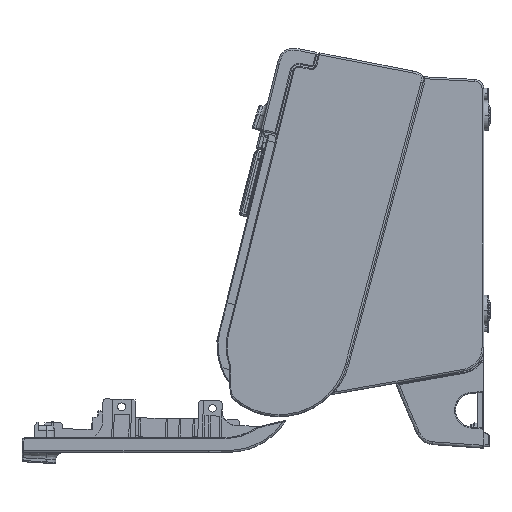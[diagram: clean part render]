
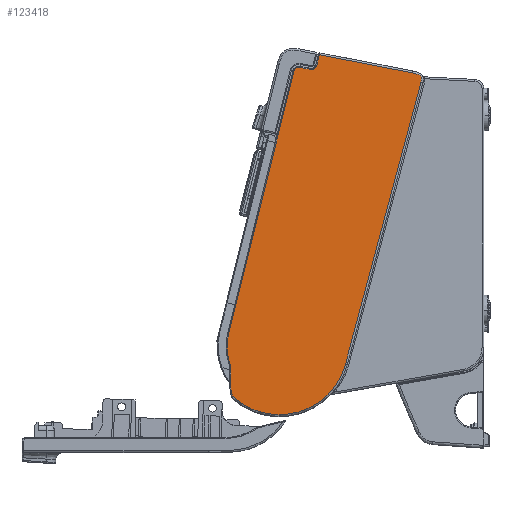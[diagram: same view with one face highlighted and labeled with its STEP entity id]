
A CAD part, left-side view. The second image highlights one B-rep face of the part: STEP entity #123418.
In plain terms, the highlighted planar face has unit normal (-1, 0, 0).
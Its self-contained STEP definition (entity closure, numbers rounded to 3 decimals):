
#97621=DIRECTION('',(0.,-0.242,0.97));
#97622=VECTOR('',#97621,5.665);
#97623=CARTESIAN_POINT('',(-29.6,0.031,53.532));
#97624=LINE('',#97623,#97622);
#97625=DIRECTION('',(0.,-0.982,-0.191));
#97626=VECTOR('',#97625,49.854);
#97627=CARTESIAN_POINT('',(-29.6,-1.339,59.029));
#97628=LINE('',#97627,#97626);
#97629=CARTESIAN_POINT('',(-29.6,-50.278,49.516));
#97630=CARTESIAN_POINT('',(-29.6,-50.534,49.467));
#97631=CARTESIAN_POINT('',(-29.6,-51.014,49.366));
#97632=CARTESIAN_POINT('',(-29.6,-51.637,49.215));
#97633=CARTESIAN_POINT('',(-29.6,-52.176,49.064));
#97634=CARTESIAN_POINT('',(-29.6,-52.639,48.916));
#97635=CARTESIAN_POINT('',(-29.6,-53.035,48.771));
#97636=CARTESIAN_POINT('',(-29.6,-53.372,48.63));
#97637=CARTESIAN_POINT('',(-29.6,-53.658,48.495));
#97638=CARTESIAN_POINT('',(-29.6,-53.901,48.366));
#97639=CARTESIAN_POINT('',(-29.6,-54.107,48.243));
#97640=CARTESIAN_POINT('',(-29.6,-54.284,48.125));
#97641=CARTESIAN_POINT('',(-29.6,-54.436,48.011));
#97642=CARTESIAN_POINT('',(-29.6,-54.567,47.901));
#97643=CARTESIAN_POINT('',(-29.6,-54.681,47.795));
#97644=CARTESIAN_POINT('',(-29.6,-54.78,47.691));
#97645=CARTESIAN_POINT('',(-29.6,-54.867,47.588));
#97646=CARTESIAN_POINT('',(-29.6,-54.943,47.486));
#97647=CARTESIAN_POINT('',(-29.6,-55.011,47.383));
#97648=CARTESIAN_POINT('',(-29.6,-55.072,47.279));
#97649=CARTESIAN_POINT('',(-29.6,-55.125,47.172));
#97650=CARTESIAN_POINT('',(-29.6,-55.173,47.06));
#97651=CARTESIAN_POINT('',(-29.6,-55.215,46.943));
#97652=CARTESIAN_POINT('',(-29.6,-55.252,46.817));
#97653=CARTESIAN_POINT('',(-29.6,-55.284,46.682));
#97654=CARTESIAN_POINT('',(-29.6,-55.309,46.535));
#97655=CARTESIAN_POINT('',(-29.6,-55.327,46.373));
#97656=CARTESIAN_POINT('',(-29.6,-55.338,46.194));
#97657=CARTESIAN_POINT('',(-29.6,-55.339,45.995));
#97658=CARTESIAN_POINT('',(-29.6,-55.328,45.77));
#97659=CARTESIAN_POINT('',(-29.6,-55.303,45.516));
#97660=CARTESIAN_POINT('',(-29.6,-55.26,45.226));
#97661=CARTESIAN_POINT('',(-29.6,-55.195,44.895));
#97662=CARTESIAN_POINT('',(-29.6,-55.133,44.642));
#97663=CARTESIAN_POINT('',(-29.6,-55.097,44.507));
#97665=DIRECTION('',(0.,0.259,-0.966));
#97666=VECTOR('',#97665,154.335);
#97667=CARTESIAN_POINT('',(-29.6,-55.097,44.507));
#97668=LINE('',#97667,#97666);
#97669=CARTESIAN_POINT('',(-29.6,19.815,-95.2));
#97670=DIRECTION('',(1.,0.,0.));
#97671=DIRECTION('',(0.,-0.966,-0.259));
#97672=AXIS2_PLACEMENT_3D('',#97669,#97670,#97671);
#97674=CARTESIAN_POINT('',(-29.6,26.7,-115.95));
#97675=DIRECTION('',(1.,0.,0.));
#97676=DIRECTION('',(0.,0.955,-0.297));
#97677=AXIS2_PLACEMENT_3D('',#97674,#97675,#97676);
#97679=DIRECTION('',(0.,0.,1.));
#97680=VECTOR('',#97679,9.401);
#97681=CARTESIAN_POINT('',(-29.6,45.5,-115.95));
#97682=LINE('',#97681,#97680);
#97683=CARTESIAN_POINT('',(-29.6,51.,-106.549));
#97684=DIRECTION('',(-1.,0.,0.));
#97685=DIRECTION('',(0.,-1.,0.));
#97686=AXIS2_PLACEMENT_3D('',#97683,#97684,#97685);
#97688=CARTESIAN_POINT('',(-29.6,19.8,-95.2));
#97689=DIRECTION('',(1.,0.,0.));
#97690=DIRECTION('',(0.,0.94,-0.342));
#97691=AXIS2_PLACEMENT_3D('',#97688,#97689,#97690);
#97693=DIRECTION('',(0.,-0.242,0.97));
#97694=VECTOR('',#97693,143.306);
#97695=CARTESIAN_POINT('',(-29.6,46.677,-88.499));
#97696=LINE('',#97695,#97694);
#97697=CARTESIAN_POINT('',(-29.6,9.582,49.946));
#97698=DIRECTION('',(1.,0.,0.));
#97699=DIRECTION('',(0.,0.97,0.242));
#97700=AXIS2_PLACEMENT_3D('',#97697,#97698,#97699);
#97702=DIRECTION('',(0.,-0.982,-0.191));
#97703=VECTOR('',#97702,5.696);
#97704=CARTESIAN_POINT('',(-29.6,9.105,52.4));
#97705=LINE('',#97704,#97703);
#97706=CARTESIAN_POINT('',(-29.6,2.942,54.258));
#97707=DIRECTION('',(-1.,0.,0.));
#97708=DIRECTION('',(0.,0.191,-0.982));
#97709=AXIS2_PLACEMENT_3D('',#97706,#97707,#97708);
#107625=CARTESIAN_POINT('',(-29.6,-1.339,59.029));
#119887=CARTESIAN_POINT('',(-29.6,-55.097,44.507));
#119888=CARTESIAN_POINT('',(-29.6,-15.152,-104.569));
#119889=VERTEX_POINT('',#119887);
#119890=VERTEX_POINT('',#119888);
#119898=CARTESIAN_POINT('',(-29.6,-50.278,49.516));
#119900=VERTEX_POINT('',#119898);
#123088=VERTEX_POINT('',#107625);
#123091=CARTESIAN_POINT('',(-29.6,0.031,53.532));
#123092=VERTEX_POINT('',#123091);
#123095=CARTESIAN_POINT('',(-29.6,3.514,51.313));
#123096=VERTEX_POINT('',#123095);
#123099=CARTESIAN_POINT('',(-29.6,9.105,52.4));
#123100=VERTEX_POINT('',#123099);
#123103=CARTESIAN_POINT('',(-29.6,12.008,50.551));
#123104=VERTEX_POINT('',#123103);
#123107=CARTESIAN_POINT('',(-29.6,46.677,-88.499));
#123108=VERTEX_POINT('',#123107);
#123111=CARTESIAN_POINT('',(-29.6,45.831,-104.669));
#123112=VERTEX_POINT('',#123111);
#123115=CARTESIAN_POINT('',(-29.6,45.5,-106.549));
#123116=VERTEX_POINT('',#123115);
#123119=CARTESIAN_POINT('',(-29.6,45.5,-115.95));
#123120=VERTEX_POINT('',#123119);
#123123=CARTESIAN_POINT('',(-29.6,44.651,-121.536));
#123124=VERTEX_POINT('',#123123);
#123385=CARTESIAN_POINT('',(-29.6,-88.4,-137.4));
#123386=DIRECTION('',(-1.,0.,0.));
#123387=DIRECTION('',(0.,0.,1.));
#123388=AXIS2_PLACEMENT_3D('',#123385,#123386,#123387);
#123389=PLANE('',#123388);
#123391=ORIENTED_EDGE('',*,*,#123390,.T.);
#123393=ORIENTED_EDGE('',*,*,#123392,.T.);
#123395=ORIENTED_EDGE('',*,*,#123394,.T.);
#123397=ORIENTED_EDGE('',*,*,#123396,.T.);
#123399=ORIENTED_EDGE('',*,*,#123398,.T.);
#123401=ORIENTED_EDGE('',*,*,#123400,.T.);
#123403=ORIENTED_EDGE('',*,*,#123402,.T.);
#123405=ORIENTED_EDGE('',*,*,#123404,.T.);
#123407=ORIENTED_EDGE('',*,*,#123406,.T.);
#123409=ORIENTED_EDGE('',*,*,#123408,.T.);
#123411=ORIENTED_EDGE('',*,*,#123410,.T.);
#123413=ORIENTED_EDGE('',*,*,#123412,.T.);
#123415=ORIENTED_EDGE('',*,*,#123414,.T.);
#123416=EDGE_LOOP('',(#123391,#123393,#123395,#123397,#123399,#123401,#123403,
#123405,#123407,#123409,#123411,#123413,#123415));
#123417=FACE_OUTER_BOUND('',#123416,.F.);
#97664=B_SPLINE_CURVE_WITH_KNOTS('',3,(#97629,#97630,#97631,#97632,#97633,
#97634,#97635,#97636,#97637,#97638,#97639,#97640,#97641,#97642,#97643,#97644,
#97645,#97646,#97647,#97648,#97649,#97650,#97651,#97652,#97653,#97654,#97655,
#97656,#97657,#97658,#97659,#97660,#97661,#97662,#97663),.UNSPECIFIED.,.F.,.F.,(
4,1,1,1,1,1,1,1,1,1,1,1,1,1,1,1,1,1,1,1,1,1,1,1,1,1,1,1,1,1,1,1,4),(0.,
0.031,0.063,0.094,0.125,0.156,0.188,0.219,0.25,0.281,
0.313,0.344,0.375,0.406,0.438,0.469,0.5,0.531,
0.563,0.594,0.625,0.656,0.688,0.719,0.75,0.781,
0.813,0.844,0.875,0.906,0.938,0.969,1.),.UNSPECIFIED.);
#97673=CIRCLE('',#97672,36.2);
#97678=CIRCLE('',#97677,18.8);
#97687=CIRCLE('',#97686,5.5);
#97692=CIRCLE('',#97691,27.7);
#97701=CIRCLE('',#97700,2.5);
#97710=CIRCLE('',#97709,3.);
#123390=EDGE_CURVE('',#123092,#123088,#97624,.T.);
#123392=EDGE_CURVE('',#123088,#119900,#97628,.T.);
#123394=EDGE_CURVE('',#119900,#119889,#97664,.T.);
#123396=EDGE_CURVE('',#119889,#119890,#97668,.T.);
#123398=EDGE_CURVE('',#119890,#123124,#97673,.T.);
#123400=EDGE_CURVE('',#123124,#123120,#97678,.T.);
#123402=EDGE_CURVE('',#123120,#123116,#97682,.T.);
#123404=EDGE_CURVE('',#123116,#123112,#97687,.T.);
#123406=EDGE_CURVE('',#123112,#123108,#97692,.T.);
#123408=EDGE_CURVE('',#123108,#123104,#97696,.T.);
#123410=EDGE_CURVE('',#123104,#123100,#97701,.T.);
#123412=EDGE_CURVE('',#123100,#123096,#97705,.T.);
#123414=EDGE_CURVE('',#123096,#123092,#97710,.T.);
#123418=ADVANCED_FACE('',(#123417),#123389,.T.);
